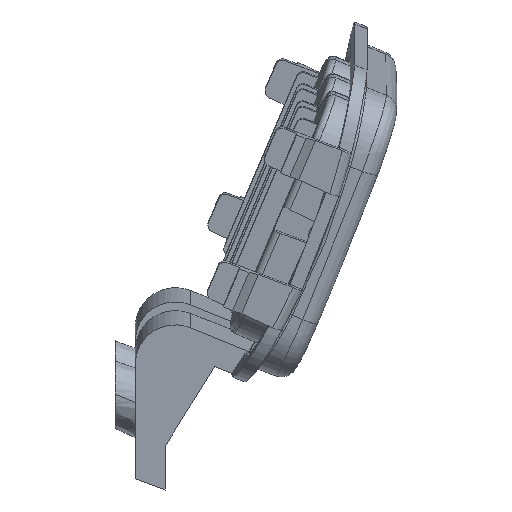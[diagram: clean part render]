
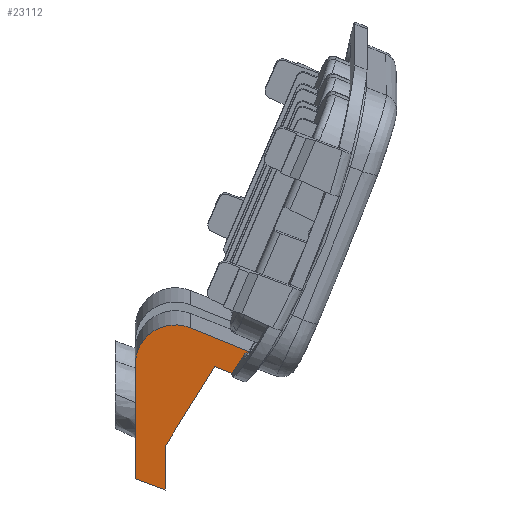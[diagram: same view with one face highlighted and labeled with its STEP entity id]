
A CAD part, left-side view. The second image highlights one B-rep face of the part: STEP entity #23112.
In plain terms, the highlighted planar face has unit normal (-0.995, 0.031, -0.1).
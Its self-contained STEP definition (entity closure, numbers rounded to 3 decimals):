
#23091=AXIS2_PLACEMENT_3D('Plane Axis2P3D',#23088,#23089,#23090) ;
#2157=CARTESIAN_POINT('Vertex',(-222.222,-959.973,456.028)) ;
#2169=CARTESIAN_POINT('Vertex',(-222.199,-962.54,454.991)) ;
#2172=CARTESIAN_POINT('Line Origine',(-222.21,-961.256,455.509)) ;
#3360=CARTESIAN_POINT('Line Origine',(-221.504,-956.261,450.059)) ;
#3364=CARTESIAN_POINT('Vertex',(-220.785,-952.549,444.09)) ;
#3971=CARTESIAN_POINT('Line Origine',(-222.646,-960.899,459.946)) ;
#3975=CARTESIAN_POINT('Vertex',(-222.688,-956.283,461.811)) ;
#3977=CARTESIAN_POINT('Vertex',(-222.604,-965.515,458.081)) ;
#4332=CARTESIAN_POINT('Vertex',(-220.123,-952.549,437.514)) ;
#4340=CARTESIAN_POINT('Line Origine',(-220.454,-952.549,440.802)) ;
#5131=CARTESIAN_POINT('Vertex',(-221.873,-948.049,456.303)) ;
#5135=CARTESIAN_POINT('Control Point',(-221.873,-948.049,456.303)) ;
#5136=CARTESIAN_POINT('Control Point',(-222.109,-948.049,458.642)) ;
#5137=CARTESIAN_POINT('Control Point',(-222.381,-949.201,460.98)) ;
#5138=CARTESIAN_POINT('Control Point',(-222.607,-951.491,462.512)) ;
#5139=CARTESIAN_POINT('Control Point',(-222.708,-954.103,462.692)) ;
#5140=CARTESIAN_POINT('Control Point',(-222.688,-956.283,461.811)) ;
#5206=CARTESIAN_POINT('Line Origine',(-220.137,-950.299,438.353)) ;
#5210=CARTESIAN_POINT('Vertex',(-220.15,-948.049,439.191)) ;
#5934=CARTESIAN_POINT('Line Origine',(-221.012,-948.049,447.747)) ;
#21630=CARTESIAN_POINT('Vertex',(-222.526,-964.295,457.691)) ;
#21634=CARTESIAN_POINT('Control Point',(-222.604,-965.515,458.081)) ;
#21635=CARTESIAN_POINT('Control Point',(-222.607,-965.192,458.211)) ;
#21636=CARTESIAN_POINT('Control Point',(-222.593,-964.805,458.192)) ;
#21637=CARTESIAN_POINT('Control Point',(-222.561,-964.48,457.984)) ;
#21638=CARTESIAN_POINT('Control Point',(-222.526,-964.295,457.691)) ;
#23088=CARTESIAN_POINT('Axis2P3D Location',(-222.409,-953.273,459.982)) ;
#23094=CARTESIAN_POINT('Control Point',(-222.199,-962.54,454.991)) ;
#23095=CARTESIAN_POINT('Control Point',(-222.263,-962.895,455.521)) ;
#23096=CARTESIAN_POINT('Control Point',(-222.328,-963.244,456.051)) ;
#23097=CARTESIAN_POINT('Control Point',(-222.396,-963.612,456.616)) ;
#23098=CARTESIAN_POINT('Control Point',(-222.461,-963.955,457.152)) ;
#23099=CARTESIAN_POINT('Control Point',(-222.526,-964.295,457.691)) ;
#2173=DIRECTION('Vector Direction',(-0.008,0.927,0.375)) ;
#3361=DIRECTION('Vector Direction',(0.102,0.525,-0.845)) ;
#3972=DIRECTION('Vector Direction',(0.008,-0.927,-0.375)) ;
#4341=DIRECTION('Vector Direction',(0.1,0.,-0.995)) ;
#5207=DIRECTION('Vector Direction',(0.006,-0.937,-0.349)) ;
#5935=DIRECTION('Vector Direction',(-0.1,0.,0.995)) ;
#23089=DIRECTION('Axis2P3D Direction',(-0.994,0.031,-0.1)) ;
#23090=DIRECTION('Axis2P3D XDirection',(0.083,0.818,-0.569)) ;
#2174=VECTOR('Line Direction',#2173,1.) ;
#3362=VECTOR('Line Direction',#3361,1.) ;
#3973=VECTOR('Line Direction',#3972,1.) ;
#4342=VECTOR('Line Direction',#4341,1.) ;
#5208=VECTOR('Line Direction',#5207,1.) ;
#5936=VECTOR('Line Direction',#5935,1.) ;
#23102=ORIENTED_EDGE('',*,*,#3979,.F.) ;
#23103=ORIENTED_EDGE('',*,*,#5141,.F.) ;
#23104=ORIENTED_EDGE('',*,*,#5938,.F.) ;
#23105=ORIENTED_EDGE('',*,*,#5212,.T.) ;
#23106=ORIENTED_EDGE('',*,*,#4344,.F.) ;
#23107=ORIENTED_EDGE('',*,*,#3366,.T.) ;
#23108=ORIENTED_EDGE('',*,*,#2176,.F.) ;
#23109=ORIENTED_EDGE('',*,*,#23100,.T.) ;
#23110=ORIENTED_EDGE('',*,*,#21639,.F.) ;
#23112=ADVANCED_FACE('\X2\65B05F00\X0\ \X2\817062588C0382825F0051739762677F\X0\ H6-\X2\5F0051739762677F\X0\-\X2\81EA8EAB5BF979F0\X0\',(#23111),#23092,.T.) ;
#5134=B_SPLINE_CURVE_WITH_KNOTS('',5,(#5135,#5136,#5137,#5138,#5139,#5140),.UNSPECIFIED.,.F.,.U.,(6,6),(0.,16.684),.UNSPECIFIED.) ;
#21633=B_SPLINE_CURVE_WITH_KNOTS('',4,(#21634,#21635,#21636,#21637,#21638),.UNSPECIFIED.,.F.,.U.,(5,5),(0.,2.026),.UNSPECIFIED.) ;
#23093=B_SPLINE_CURVE_WITH_KNOTS('',5,(#23094,#23095,#23096,#23097,#23098,#23099),.UNSPECIFIED.,.F.,.U.,(6,6),(0.,4.551),.UNSPECIFIED.) ;
#2176=EDGE_CURVE('',#2170,#2158,#2175,.T.) ;
#3366=EDGE_CURVE('',#3365,#2158,#3363,.F.) ;
#3979=EDGE_CURVE('',#3976,#3978,#3974,.T.) ;
#4344=EDGE_CURVE('',#3365,#4333,#4343,.T.) ;
#5141=EDGE_CURVE('',#5132,#3976,#5134,.T.) ;
#5212=EDGE_CURVE('',#5211,#4333,#5209,.T.) ;
#5938=EDGE_CURVE('',#5211,#5132,#5937,.T.) ;
#21639=EDGE_CURVE('',#3978,#21631,#21633,.T.) ;
#23100=EDGE_CURVE('',#2170,#21631,#23093,.T.) ;
#23101=EDGE_LOOP('',(#23102,#23103,#23104,#23105,#23106,#23107,#23108,#23109,#23110)) ;
#23111=FACE_OUTER_BOUND('',#23101,.T.) ;
#2175=LINE('Line',#2172,#2174) ;
#3363=LINE('Line',#3360,#3362) ;
#3974=LINE('Line',#3971,#3973) ;
#4343=LINE('Line',#4340,#4342) ;
#5209=LINE('Line',#5206,#5208) ;
#5937=LINE('Line',#5934,#5936) ;
#23092=PLANE('',#23091) ;
#2158=VERTEX_POINT('',#2157) ;
#2170=VERTEX_POINT('',#2169) ;
#3365=VERTEX_POINT('',#3364) ;
#3976=VERTEX_POINT('',#3975) ;
#3978=VERTEX_POINT('',#3977) ;
#4333=VERTEX_POINT('',#4332) ;
#5132=VERTEX_POINT('',#5131) ;
#5211=VERTEX_POINT('',#5210) ;
#21631=VERTEX_POINT('',#21630) ;
